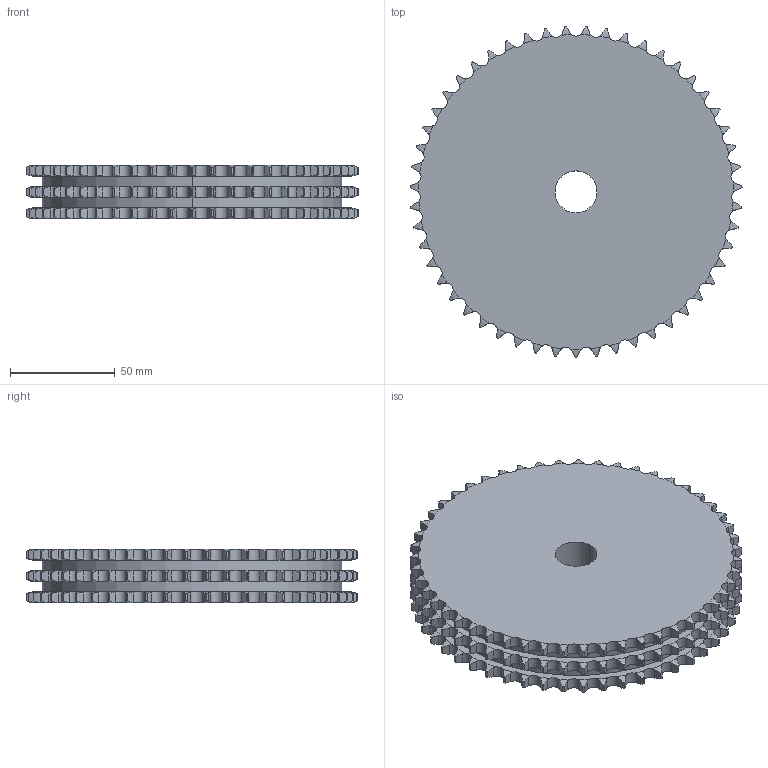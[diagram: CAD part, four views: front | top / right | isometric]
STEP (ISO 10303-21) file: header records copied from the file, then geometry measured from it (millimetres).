
FILE_DESCRIPTION((''),'2;1');
FILE_NAME('500-103-0051_PRT','2021-02-12T',('Brieden'),('Brieden'),'PRO/ENGINEER BY PARAMETRIC TECHNOLOGY CORPORATION, 2010160','PRO/ENGINEER BY PARAMETRIC TECHNOLOGY CORPORATION, 2010160','');
FILE_SCHEMA(('AUTOMOTIVE_DESIGN { 1 0 10303 214 1 1 1 1 }'));
Length unit declared in the file: millimetre
Products named in the file (1): 500-103-0051_PRT
Bounding box: 158.15 x 158.07 x 25.6 mm (x, y, z)
Volume: 434536.5 mm3; surface area: 61023.3 mm2
Topology: 1 solids, 1 shells, 930 faces, 2772 edges, 1848 vertices
Faces by surface type: cylinder 618, torus 306, plane 6
Entity records: 45301 total; most frequent: CARTESIAN_POINT 13426, ORIENTED_EDGE 5544, DIRECTION 4338, PRESENTATION_STYLE_ASSIGNMENT 2773, STYLED_ITEM 2773, CURVE_STYLE 2772, EDGE_CURVE 2772, AXIS2_PLACEMENT_3D 1860
